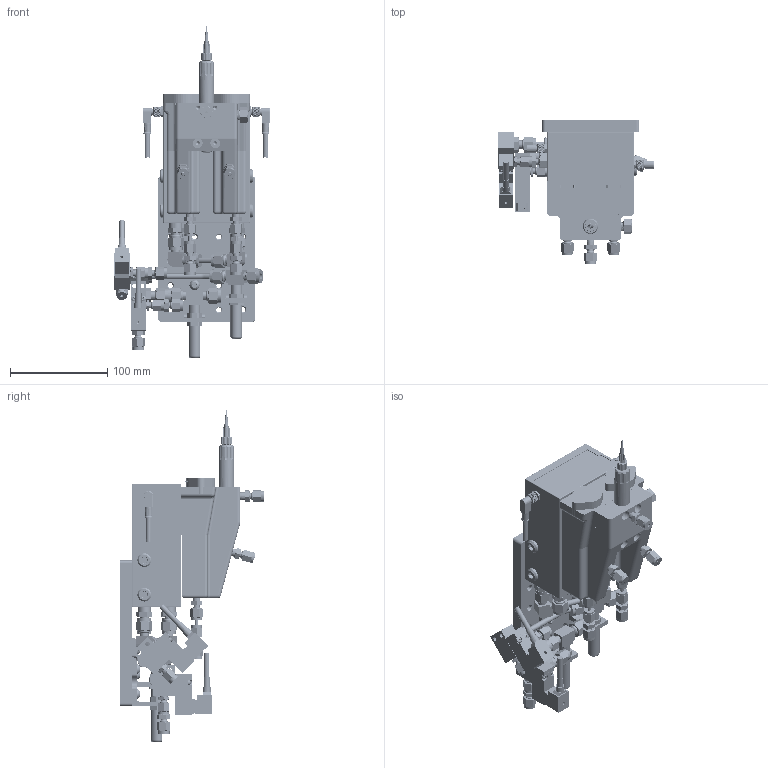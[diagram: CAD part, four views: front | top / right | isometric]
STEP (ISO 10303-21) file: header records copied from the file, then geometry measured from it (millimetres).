
FILE_DESCRIPTION (( 'STEP AP214' ), '1' );
FILE_NAME ('IDS dual material subsystem printhead 900091C defeatured.STEP', '2023-07-11T17:22:40', ( '' ), ( '' ), 'SwSTEP 2.0', 'SolidWorks 2023', '' );
FILE_SCHEMA (( 'AUTOMOTIVE_DESIGN' ));
Length unit declared in the file: millimetre
Products named in the file (1): IDS dual material subsystem printhead 900091C defeatured
Bounding box: 160.16 x 149.07 x 342.02 mm (x, y, z)
Volume: 1318253.6 mm3; surface area: 244159.3 mm2
Topology: 61 solids, 98 shells, 7284 faces, 16436 edges, 9553 vertices
Faces by surface type: bspline 3211, cylinder 1670, plane 1260, cone 1075, sphere 50, torus 18
Full cylindrical faces by diameter (mm): 0.23 x1, 1 x6, 1.2 x6, 1.422 x4, 1.753 x2, 1.778 x4, 1.985 x3, 2 x3, 2.007 x6, 2.286 x6, 2.5 x8, 2.578 x2, 2.705 x1, 3 x6, 3.048 x2, 3.175 x10, 3.3 x4, 3.302 x4, 3.861 x8, 4 x2, 4.039 x5, 4.2 x7, 4.216 x3, 4.222 x1, 4.318 x2, 4.366 x12, 4.5 x2, 4.693 x4, 4.801 x2, 4.826 x18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
Entity records: 259011 total; most frequent: CARTESIAN_POINT 139384, ORIENTED_EDGE 31144, DIRECTION 16410, EDGE_CURVE 15572, VERTEX_POINT 9303, EDGE_LOOP 8295, FACE_OUTER_BOUND 7655, ADVANCED_FACE 7280
